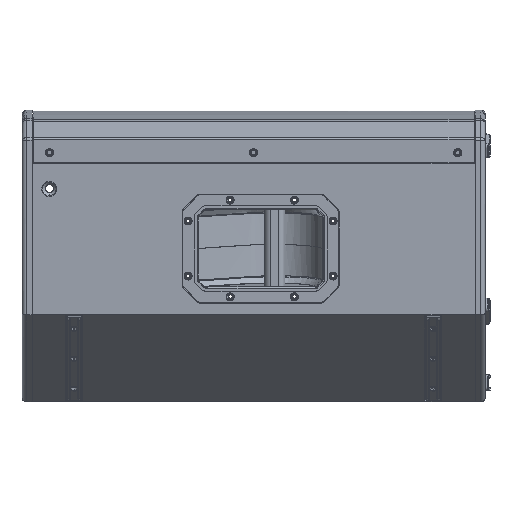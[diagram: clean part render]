
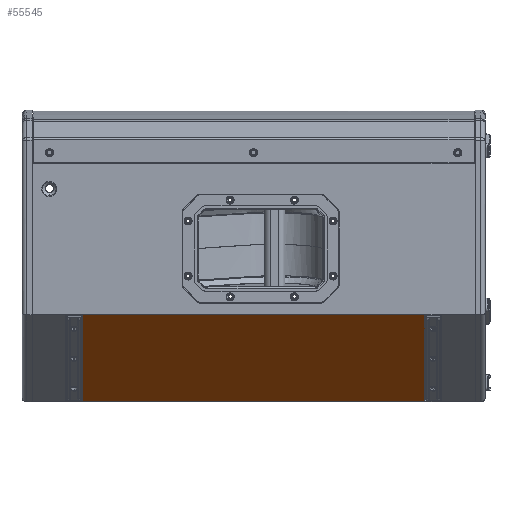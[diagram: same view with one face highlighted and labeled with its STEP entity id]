
A CAD part, left-side view. The second image highlights one B-rep face of the part: STEP entity #55545.
In plain terms, the highlighted planar face has unit normal (-0.625, 0, -0.781) as drawn and (0, 0, 1) by its records, which use the part's own axes.
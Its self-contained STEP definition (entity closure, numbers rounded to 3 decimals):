
#28 = DIRECTION ( 'NONE',  ( 1., 0., 0. ) ) ;
#1670 = CARTESIAN_POINT ( 'NONE',  ( 101.3, -250., 7.5 ) ) ;
#3014 = DIRECTION ( 'NONE',  ( 0., -1., 0. ) ) ;
#3391 = CARTESIAN_POINT ( 'NONE',  ( -101.3, 329.22, 7.5 ) ) ;
#3672 = EDGE_CURVE ( 'NONE', #70316, #66572, #24352, .T. ) ;
#4759 = VERTEX_POINT ( 'NONE', #1670 ) ;
#5105 = ORIENTED_EDGE ( 'NONE', *, *, #3672, .F. ) ;
#6078 = LINE ( 'NONE', #6449, #91658 ) ;
#6449 = CARTESIAN_POINT ( 'NONE',  ( 101.3, 329.22, 7.5 ) ) ;
#6666 = DIRECTION ( 'NONE',  ( 0., 1., 0. ) ) ;
#12366 = LINE ( 'NONE', #17936, #65807 ) ;
#17936 = CARTESIAN_POINT ( 'NONE',  ( 101.3, -250., 7.5 ) ) ;
#19151 = DIRECTION ( 'NONE',  ( 1., 0., 0. ) ) ;
#23599 = EDGE_CURVE ( 'NONE', #4759, #66572, #6078, .T. ) ;
#23880 = CARTESIAN_POINT ( 'NONE',  ( -101.3, 250., 7.5 ) ) ;
#24206 = EDGE_LOOP ( 'NONE', ( #59249, #68225, #5105, #28224 ) ) ;
#24352 = LINE ( 'NONE', #47841, #46586 ) ;
#28224 = ORIENTED_EDGE ( 'NONE', *, *, #38986, .T. ) ;
#35224 = CARTESIAN_POINT ( 'NONE',  ( 101.3, 250., 7.5 ) ) ;
#38986 = EDGE_CURVE ( 'NONE', #70316, #101353, #41039, .T. ) ;
#41039 = LINE ( 'NONE', #3391, #64438 ) ;
#46292 = EDGE_CURVE ( 'NONE', #101353, #4759, #12366, .T. ) ;
#46586 = VECTOR ( 'NONE', #28, 1000. ) ;
#47841 = CARTESIAN_POINT ( 'NONE',  ( -101.3, 250., 7.5 ) ) ;
#49055 = CARTESIAN_POINT ( 'NONE',  ( -101.3, -250., 7.5 ) ) ;
#51551 = DIRECTION ( 'NONE',  ( 0., 1., 0. ) ) ;
#51564 = DIRECTION ( 'NONE',  ( 0., 0., -1. ) ) ;
#51688 = CARTESIAN_POINT ( 'NONE',  ( -101.3, 329.22, 7.5 ) ) ;
#52640 = PLANE ( 'NONE',  #54045 ) ;
#54045 = AXIS2_PLACEMENT_3D ( 'NONE', #51688, #51564, #51551 ) ;
#55545 = ADVANCED_FACE ( 'NONE', ( #57570 ), #52640, .F. ) ;
#57570 = FACE_OUTER_BOUND ( 'NONE', #24206, .T. ) ;
#59249 = ORIENTED_EDGE ( 'NONE', *, *, #46292, .T. ) ;
#64438 = VECTOR ( 'NONE', #3014, 1000. ) ;
#65807 = VECTOR ( 'NONE', #19151, 1000. ) ;
#66572 = VERTEX_POINT ( 'NONE', #35224 ) ;
#68225 = ORIENTED_EDGE ( 'NONE', *, *, #23599, .T. ) ;
#70316 = VERTEX_POINT ( 'NONE', #23880 ) ;
#91658 = VECTOR ( 'NONE', #6666, 1000. ) ;
#101353 = VERTEX_POINT ( 'NONE', #49055 ) ;
